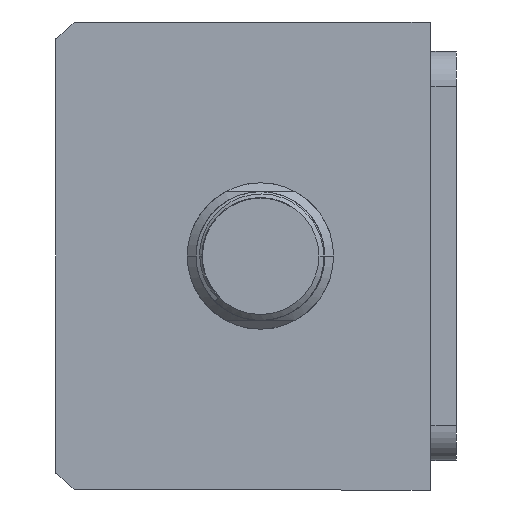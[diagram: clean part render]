
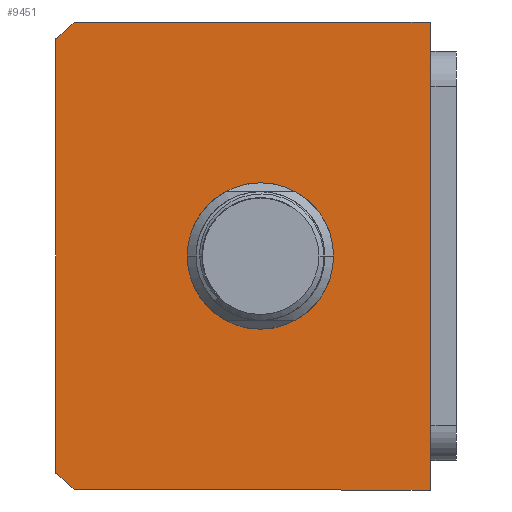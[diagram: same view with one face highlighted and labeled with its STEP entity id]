
A CAD part, front view. The second image highlights one B-rep face of the part: STEP entity #9451.
In plain terms, the highlighted planar face has unit normal (0, -1, 0) as drawn and (0, 0, -1) by its records, which use the part's own axes.
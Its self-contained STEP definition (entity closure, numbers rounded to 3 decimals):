
#217 = DIRECTION ( 'NONE',  ( 0., 0., 1. ) ) ;
#465 = DIRECTION ( 'NONE',  ( 1., 0., 0. ) ) ;
#600 = DIRECTION ( 'NONE',  ( 0., 1., 0. ) ) ;
#632 = DIRECTION ( 'NONE',  ( 0., -1., 0. ) ) ;
#649 = AXIS2_PLACEMENT_3D ( 'NONE', #16869, #8665, #465 ) ;
#778 = CARTESIAN_POINT ( 'NONE',  ( -40., -32., 0. ) ) ;
#861 = VECTOR ( 'NONE', #16117, 1000. ) ;
#1114 = ORIENTED_EDGE ( 'NONE', *, *, #1369, .T. ) ;
#1369 = EDGE_CURVE ( 'NONE', #11820, #15244, #13620, .T. ) ;
#1487 = ORIENTED_EDGE ( 'NONE', *, *, #3229, .T. ) ;
#1586 = CARTESIAN_POINT ( 'NONE',  ( 0., 0., 0. ) ) ;
#1709 = VERTEX_POINT ( 'NONE', #1739 ) ;
#1739 = CARTESIAN_POINT ( 'NONE',  ( -37.094, -32., 0. ) ) ;
#2219 = CIRCLE ( 'NONE', #8851, 51. ) ;
#2408 = AXIS2_PLACEMENT_3D ( 'NONE', #1586, #3022, #12621 ) ;
#2409 = CARTESIAN_POINT ( 'NONE',  ( 12.5, 3., 0. ) ) ;
#2464 = FACE_OUTER_BOUND ( 'NONE', #12836, .T. ) ;
#2537 = VERTEX_POINT ( 'NONE', #15954 ) ;
#2849 = CARTESIAN_POINT ( 'NONE',  ( 0., 3., 0. ) ) ;
#3022 = DIRECTION ( 'NONE',  ( 0., 0., 1. ) ) ;
#3229 = EDGE_CURVE ( 'NONE', #15244, #11820, #6300, .T. ) ;
#3253 = CARTESIAN_POINT ( 'NONE',  ( 37.094, -32., 0. ) ) ;
#3345 = AXIS2_PLACEMENT_3D ( 'NONE', #5275, #14866, #6658 ) ;
#3707 = EDGE_CURVE ( 'NONE', #4689, #2537, #5630, .T. ) ;
#4220 = DIRECTION ( 'NONE',  ( 1., 0., 0. ) ) ;
#4689 = VERTEX_POINT ( 'NONE', #10240 ) ;
#4869 = CARTESIAN_POINT ( 'NONE',  ( 40., -28.639, 0. ) ) ;
#4904 = DIRECTION ( 'NONE',  ( 1., 0., 0. ) ) ;
#5275 = CARTESIAN_POINT ( 'NONE',  ( 0., 3., 0. ) ) ;
#5627 = FACE_BOUND ( 'NONE', #17202, .T. ) ;
#5630 = LINE ( 'NONE', #14849, #8452 ) ;
#6300 = CIRCLE ( 'NONE', #15740, 12.5 ) ;
#6658 = DIRECTION ( 'NONE',  ( 1., 0., 0. ) ) ;
#6887 = EDGE_CURVE ( 'NONE', #15594, #7990, #7842, .T. ) ;
#6929 = LINE ( 'NONE', #778, #17459 ) ;
#6954 = VECTOR ( 'NONE', #600, 1000. ) ;
#7071 = PLANE ( 'NONE',  #2408 ) ;
#7760 = CARTESIAN_POINT ( 'NONE',  ( -12.5, 3., 0. ) ) ;
#7842 = LINE ( 'NONE', #17014, #6954 ) ;
#7912 = CARTESIAN_POINT ( 'NONE',  ( -40., 32., 0. ) ) ;
#7990 = VERTEX_POINT ( 'NONE', #16104 ) ;
#8432 = CARTESIAN_POINT ( 'NONE',  ( 0., 3., 0. ) ) ;
#8452 = VECTOR ( 'NONE', #632, 1000. ) ;
#8665 = DIRECTION ( 'NONE',  ( 0., 0., 1. ) ) ;
#8851 = AXIS2_PLACEMENT_3D ( 'NONE', #2849, #12447, #4220 ) ;
#9232 = ORIENTED_EDGE ( 'NONE', *, *, #6887, .F. ) ;
#9451 = ADVANCED_FACE ( 'NONE', ( #5627, #2464 ), #7071, .F. ) ;
#9800 = DIRECTION ( 'NONE',  ( 1., 0., 0. ) ) ;
#10240 = CARTESIAN_POINT ( 'NONE',  ( -40., 32., 0. ) ) ;
#10923 = EDGE_CURVE ( 'NONE', #13752, #15594, #2219, .T. ) ;
#11347 = LINE ( 'NONE', #7912, #861 ) ;
#11820 = VERTEX_POINT ( 'NONE', #2409 ) ;
#12447 = DIRECTION ( 'NONE',  ( 0., 0., 1. ) ) ;
#12521 = EDGE_CURVE ( 'NONE', #7990, #4689, #11347, .T. ) ;
#12621 = DIRECTION ( 'NONE',  ( 1., 0., 0. ) ) ;
#12836 = EDGE_LOOP ( 'NONE', ( #14981, #13883, #13834, #9232, #17676, #17639 ) ) ;
#13620 = CIRCLE ( 'NONE', #3345, 12.5 ) ;
#13752 = VERTEX_POINT ( 'NONE', #3253 ) ;
#13834 = ORIENTED_EDGE ( 'NONE', *, *, #12521, .F. ) ;
#13883 = ORIENTED_EDGE ( 'NONE', *, *, #3707, .F. ) ;
#14849 = CARTESIAN_POINT ( 'NONE',  ( -40., 32., 0. ) ) ;
#14866 = DIRECTION ( 'NONE',  ( 0., 0., 1. ) ) ;
#14981 = ORIENTED_EDGE ( 'NONE', *, *, #16617, .F. ) ;
#15244 = VERTEX_POINT ( 'NONE', #7760 ) ;
#15594 = VERTEX_POINT ( 'NONE', #4869 ) ;
#15740 = AXIS2_PLACEMENT_3D ( 'NONE', #8432, #217, #9800 ) ;
#15954 = CARTESIAN_POINT ( 'NONE',  ( -40., -28.639, 0. ) ) ;
#16104 = CARTESIAN_POINT ( 'NONE',  ( 40., 32., 0. ) ) ;
#16117 = DIRECTION ( 'NONE',  ( -1., 0., 0. ) ) ;
#16617 = EDGE_CURVE ( 'NONE', #2537, #1709, #17238, .T. ) ;
#16869 = CARTESIAN_POINT ( 'NONE',  ( 0., 3., 0. ) ) ;
#17014 = CARTESIAN_POINT ( 'NONE',  ( 40., 32., 0. ) ) ;
#17094 = EDGE_CURVE ( 'NONE', #1709, #13752, #6929, .T. ) ;
#17202 = EDGE_LOOP ( 'NONE', ( #1114, #1487 ) ) ;
#17238 = CIRCLE ( 'NONE', #649, 51. ) ;
#17459 = VECTOR ( 'NONE', #4904, 1000. ) ;
#17639 = ORIENTED_EDGE ( 'NONE', *, *, #17094, .F. ) ;
#17676 = ORIENTED_EDGE ( 'NONE', *, *, #10923, .F. ) ;
